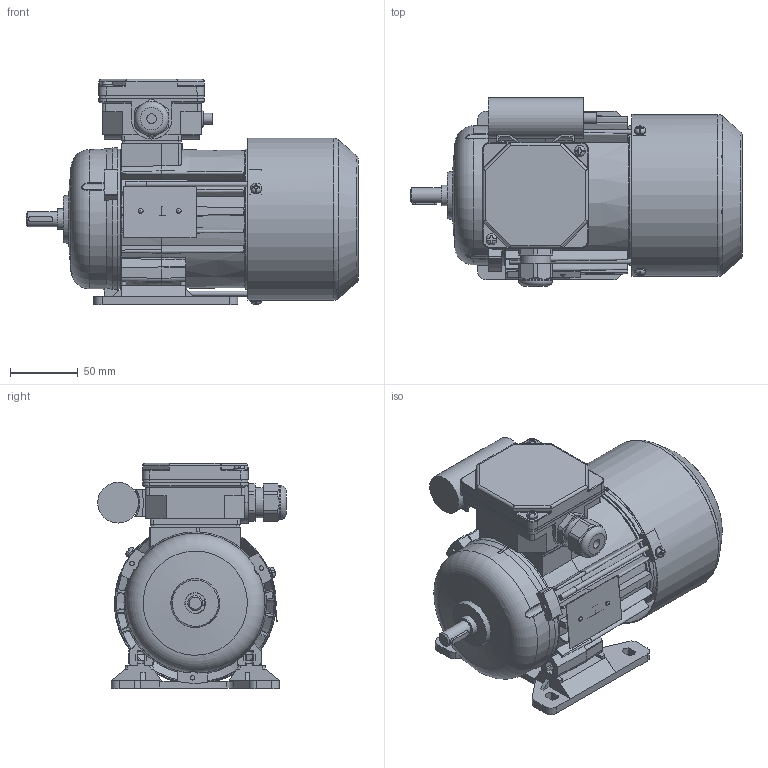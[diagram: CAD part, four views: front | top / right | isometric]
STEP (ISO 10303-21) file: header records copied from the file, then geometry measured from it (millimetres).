
FILE_DESCRIPTION(/* description */ ('Unknown'),/* implementation_level */ '2;1');
FILE_NAME(/* name */ '3SSIE63-4B',/* time_stamp */ '2024-06-17T09:28:27+02:00',/* author */ ('Unknown'),/* organization */ ('Unknown'),/* preprocessor_version */ 'ST-DEVELOPER v16.7',/* originating_system */ 'Solid Edge',/* authorisation */ 'Unknown');
FILE_SCHEMA (('AUTOMOTIVE_DESIGN {1 0 10303 214 3 1 1}'));
Length unit declared in the file: millimetre
Products named in the file (1): Czêœæ8
Bounding box: 244.47 x 138.82 x 166 mm (x, y, z)
Volume: 628108.5 mm3; surface area: 362191.9 mm2
Topology: 2 solids, 2 shells, 2049 faces, 5885 edges, 3837 vertices
Faces by surface type: plane 1054, cylinder 573, torus 151, cone 144, bspline 106, sphere 21
Full cylindrical faces by diameter (mm): 2 x1, 2.4 x2, 3 x1, 3.242 x3, 3.7 x7, 3.8 x1, 4 x5, 4.5 x5, 4.6 x1, 4.8 x2, 5 x2, 5.8 x4, 6.5 x1, 7 x4, 7.998 x1, 8 x6, 10.998 x1, 12.897 x1, 13.097 x1, 14.997 x2, 15.4 x2, 18.996 x2, 19.496 x1, 19.996 x1, 20.096 x1, 21.516 x4, 22.3 x1, 25 x1, 28 x2, 28.48 x4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
Entity records: 84552 total; most frequent: CARTESIAN_POINT 18725, ORIENTED_EDGE 11136, DIRECTION 10143, EDGE_CURVE 5568, AXIS2_PLACEMENT_3D 3733, VERTEX_POINT 3718, LINE 2677, VECTOR 2677
